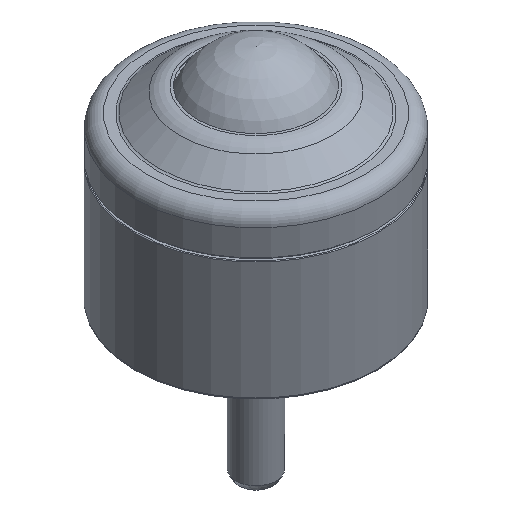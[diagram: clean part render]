
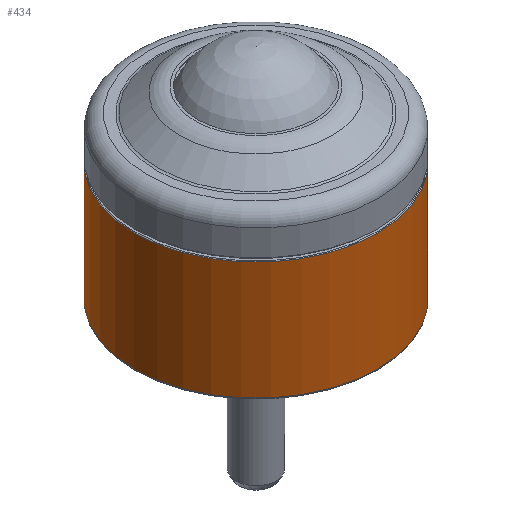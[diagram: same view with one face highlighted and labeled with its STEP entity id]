
A CAD part, isometric view. The second image highlights one B-rep face of the part: STEP entity #434.
In plain terms, the highlighted cylindrical face has radius 36 mm (diameter 72 mm), a full revolution.
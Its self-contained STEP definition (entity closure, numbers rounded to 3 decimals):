
#63=CYLINDRICAL_SURFACE('',#474,36.);
#76=FACE_BOUND('',#137,.T.);
#100=FACE_OUTER_BOUND('',#136,.T.);
#136=EDGE_LOOP('',(#299));
#137=EDGE_LOOP('',(#300));
#192=CIRCLE('',#473,36.);
#193=CIRCLE('',#475,36.);
#217=VERTEX_POINT('',#679);
#218=VERTEX_POINT('',#682);
#254=EDGE_CURVE('',#217,#217,#192,.T.);
#255=EDGE_CURVE('',#218,#218,#193,.T.);
#299=ORIENTED_EDGE('',*,*,#254,.F.);
#300=ORIENTED_EDGE('',*,*,#255,.T.);
#434=ADVANCED_FACE('',(#100,#76),#63,.T.);
#473=AXIS2_PLACEMENT_3D('',#680,#542,#543);
#474=AXIS2_PLACEMENT_3D('',#681,#544,#545);
#475=AXIS2_PLACEMENT_3D('',#683,#546,#547);
#542=DIRECTION('center_axis',(0.,0.,-1.));
#543=DIRECTION('ref_axis',(0.,1.,0.));
#544=DIRECTION('center_axis',(0.,0.,-1.));
#545=DIRECTION('ref_axis',(0.,1.,0.));
#546=DIRECTION('center_axis',(0.,0.,-1.));
#547=DIRECTION('ref_axis',(0.,1.,0.));
#679=CARTESIAN_POINT('',(0.,36.,0.5));
#680=CARTESIAN_POINT('Origin',(0.,0.,0.5));
#681=CARTESIAN_POINT('Origin',(0.,0.,17.9));
#682=CARTESIAN_POINT('',(0.,36.,35.3));
#683=CARTESIAN_POINT('Origin',(0.,0.,35.3));
